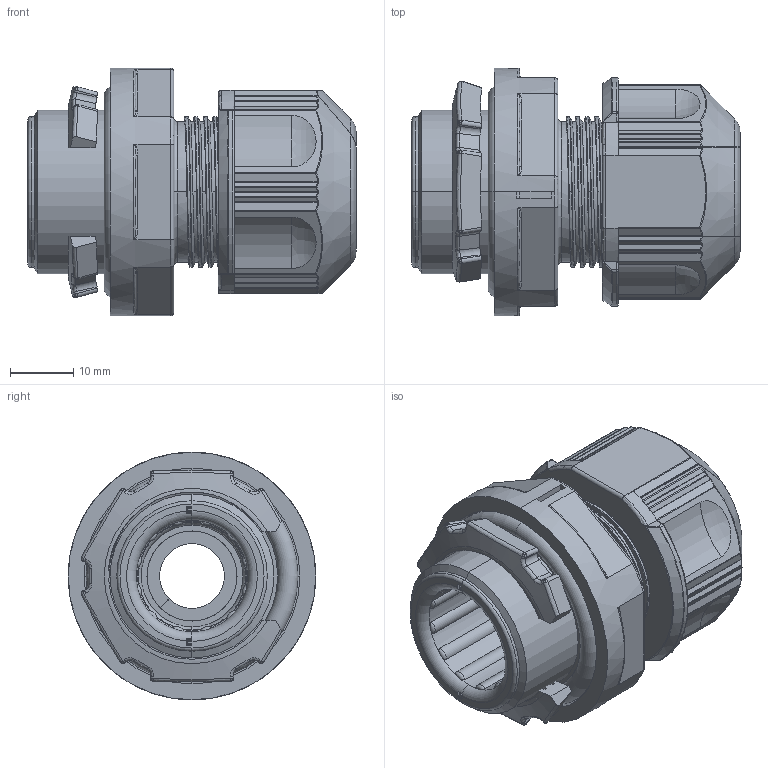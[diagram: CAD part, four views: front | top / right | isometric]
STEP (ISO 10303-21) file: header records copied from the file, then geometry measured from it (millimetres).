
FILE_DESCRIPTION(('Creo Elements/Direct Modeling STEP Export'),'2;1');
FILE_NAME('H12-0021-CL901-02_OA-WH22-06_13.stp','2021-12-23T10:43:26',(''),(''),'Creo Elements/Direct Modeling STEP processor for AP214 (Solid Model)','Creo Elements/Direct Modeling 20.3B 05-Dec-2020 (C) Parametric Technology GmbH','');
FILE_SCHEMA(('AUTOMOTIVE_DESIGN { 1 0 10303 214 1 1 1 1 }'));
Products named in the file (4): Nipple; Locknut; Rubber bushing B; OA-WH22-06_13
Assembly tree (3 placements, depth 2):
  OA-WH22-06_13
    Rubber bushing B
    Locknut
    Nipple
Bounding box: 51.7 x 39 x 39 mm (x, y, z)
Volume: 29799.1 mm3; surface area: 14886.8 mm2
Topology: 3 solids, 3 shells, 881 faces, 2343 edges, 1454 vertices
Faces by surface type: bspline 287, cylinder 265, plane 200, torus 72, cone 37, sphere 18, revolution 1, extrusion 1
Entity records: 56126 total; most frequent: CARTESIAN_POINT 37191, ORIENTED_EDGE 4646, DIRECTION 2764, EDGE_CURVE 2323, VERTEX_POINT 1454, B_SPLINE_CURVE_WITH_KNOTS 1136, AXIS2_PLACEMENT_3D 1056, EDGE_LOOP 889
